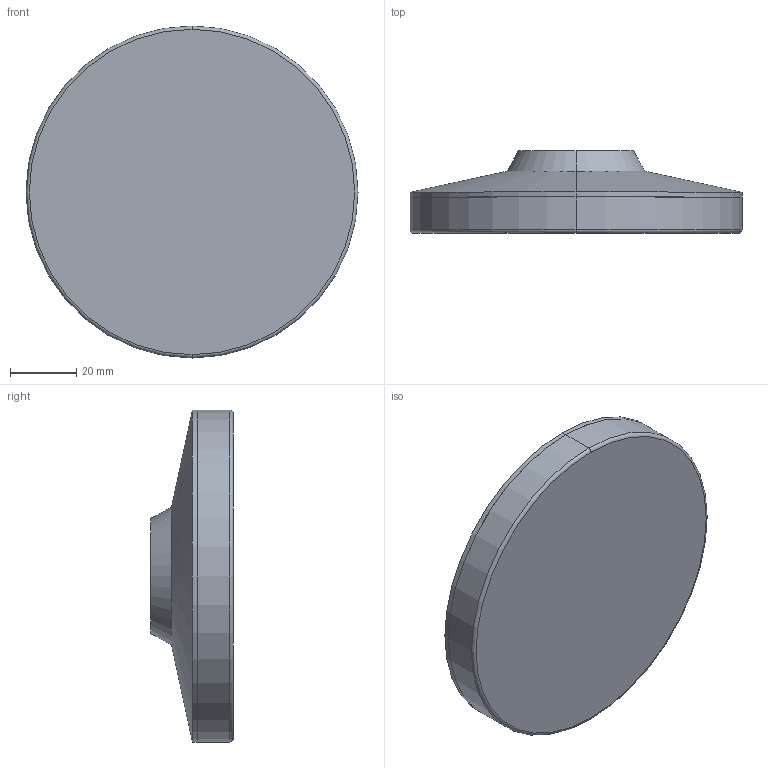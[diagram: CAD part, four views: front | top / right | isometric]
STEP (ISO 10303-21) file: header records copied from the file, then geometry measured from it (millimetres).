
FILE_DESCRIPTION (( 'STEP AP214' ), '1' );
FILE_NAME ('6311.3-100-22-R.step', '2023-04-17T05:34:33', ( '' ), ( '' ), 'SwSTEP 2.0', 'SolidWorks 2022', '' );
FILE_SCHEMA (( 'AUTOMOTIVE_DESIGN' ));
Length unit declared in the file: millimetre
Products named in the file (1): 6311.3-100-22-R
Bounding box: 100 x 24.8 x 100 mm (x, y, z)
Volume: 126923.5 mm3; surface area: 22548.5 mm2
Topology: 1 solids, 1 shells, 36 faces, 79 edges, 50 vertices
Faces by surface type: cylinder 16, plane 8, torus 6, cone 4, sphere 2
Entity records: 1150 total; most frequent: CARTESIAN_POINT 202, DIRECTION 201, ORIENTED_EDGE 158, AXIS2_PLACEMENT_3D 89, EDGE_CURVE 79, CIRCLE 52, VERTEX_POINT 50, EDGE_LOOP 41
